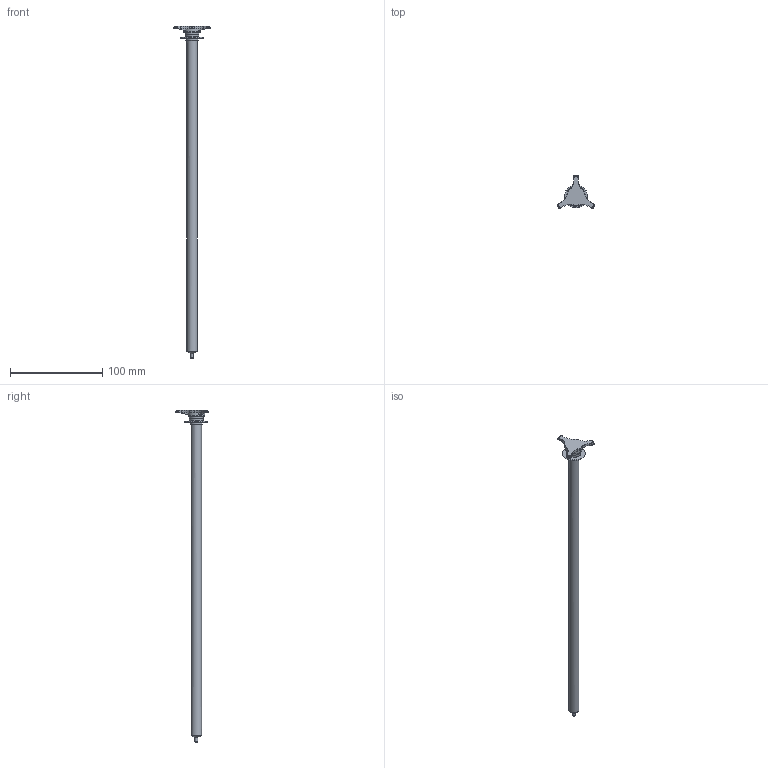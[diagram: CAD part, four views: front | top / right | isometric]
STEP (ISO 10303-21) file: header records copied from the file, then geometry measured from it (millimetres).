
FILE_DESCRIPTION(/* description */ (''),/* implementation_level */ '2;1');
FILE_NAME(/* name */ 'LA-6084-1500-A.stp',/* time_stamp */ '2014-06-03T14:32:07+01:00',/* author */ (''),/* organization */ (''),/* preprocessor_version */ 'ST-DEVELOPER v11',/* originating_system */ 'SIEMENS PLM Software NX 7.5',/* authorisation */ '');
FILE_SCHEMA (('AUTOMOTIVE_DESIGN { 1 0 10303 214 1 1 1 1 }'));
Length unit declared in the file: millimetre
Products named in the file (1): ej13DD85l5g4
Bounding box: 40.73 x 35.61 x 359.3 mm (x, y, z)
Volume: 37894.8 mm3; surface area: 14759.8 mm2
Topology: 1 solids, 1 shells, 151 faces, 485 edges, 383 vertices
Faces by surface type: plane 69, cylinder 51, cone 29, torus 2
Full cylindrical faces by diameter (mm): 1.7 x1, 3 x1, 11.1 x1, 11.25 x1, 13.05 x1, 13.46 x1, 15 x2, 18 x1, 25 x1
Entity records: 7106 total; most frequent: CARTESIAN_POINT 2043, ORIENTED_EDGE 910, DIRECTION 653, EDGE_CURVE 455, VERTEX_POINT 376, AXIS2_PLACEMENT_3D 273, B_SPLINE_CURVE_WITH_KNOTS 227, EDGE_LOOP 221
